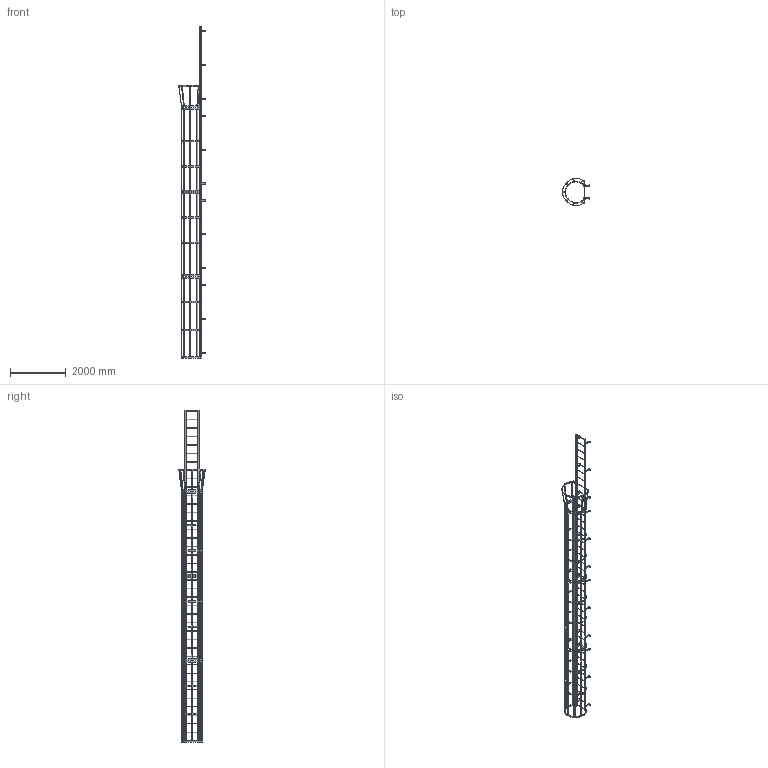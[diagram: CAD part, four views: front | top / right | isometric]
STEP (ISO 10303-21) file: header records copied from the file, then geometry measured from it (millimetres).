
FILE_DESCRIPTION(/* description */ (''),/* implementation_level */ '2;1');
FILE_NAME(/* name */ 'P:\MIKEL & KAREN\3570371 F40SC SIMPLIFIED PART.stp',/* time_stamp */ '2018-07-02T16:10:38-04:00',/* author */ ('stephanie'),/* organization */ (''),/* preprocessor_version */ 'ST-DEVELOPER v16.1',/* originating_system */ 'Autodesk Inventor 2016',/* authorisation */ '');
FILE_SCHEMA (('AUTOMOTIVE_DESIGN { 1 0 10303 214 3 1 1 }'));
Length unit declared in the file: centimetre
Products named in the file (1): 3570371 F40SC SIMPLIFIED PART
Bounding box: 974.15 x 977.88 x 11963.4 mm (x, y, z)
Volume: 42733836.8 mm3; surface area: 15217365.4 mm2
Topology: 54 solids, 54 shells, 1303 faces, 3989 edges, 2582 vertices
Faces by surface type: plane 876, cylinder 427
Full cylindrical faces by diameter (mm): 14.287 x30, 19.05 x40, 22.225 x80
Entity records: 45020 total; most frequent: ORIENTED_EDGE 7682, CARTESIAN_POINT 7505, DIRECTION 7411, EDGE_CURVE 3729, LINE 2655, VECTOR 2655, VERTEX_POINT 2472, AXIS2_PLACEMENT_3D 2378
